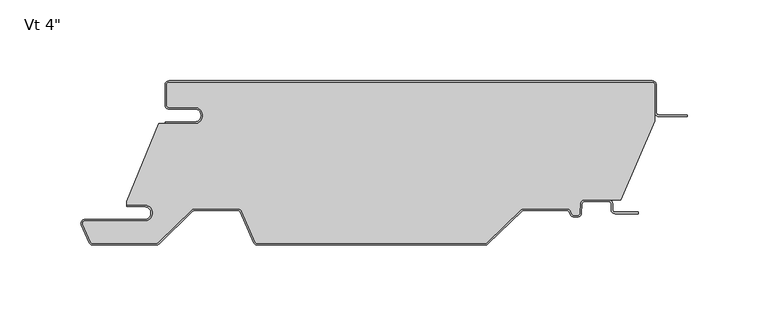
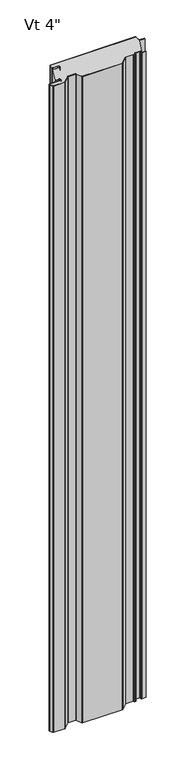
"""IFC4 building model written with IfcOpenShell, lengths in millimetres: plate geometry."""

from ifc_helpers import new_model, si_unit, point, frame_2d, origin, origin_with_axes, place, context, project, spatial, polyline, circle_curve, trimmed, segment, composite_curve, outline, extrude, source, transform, mapped, element, save


def plate_817032a2(model_context):
    return source(origin(), model_context, "Body", "SweptSolid", [
        extrude(outline(composite_curve([segment(trimmed(circle_curve(frame_2d((-133.35, -21.4324412)), 4.96875), [point((-133.35, -26.4011912))], [point((-133.35, -16.4636912))], True, "CARTESIAN"), True, "CONTINUOUS"), segment(polyline([(-133.35, -16.4636912), (-149.225, -16.4636912)]), True, "CONTINUOUS"), segment(trimmed(circle_curve(frame_2d((-149.225, -15.0824412)), 1.38125), [point((-149.225, -16.4636912))], [point((-150.60625, -15.0824412))], False, "CARTESIAN"), True, "CONTINUOUS"), segment(polyline([(-150.60625, -15.0824412), (-150.60625, -2.3824412)]), True, "CONTINUOUS"), segment(trimmed(circle_curve(frame_2d((-149.225, -2.3824412)), 1.38125), [point((-150.60625, -2.3824412))], [point((-149.225, -1.0011912))], False, "CARTESIAN"), True, "CONTINUOUS"), segment(polyline([(-149.225, -1.0011912), (149.225, -1.0011912)]), True, "CONTINUOUS"), segment(trimmed(circle_curve(frame_2d((149.225, -2.3824412)), 1.38125), [point((149.225, -1.0011912))], [point((150.60625, -2.3824412))], False, "CARTESIAN"), True, "CONTINUOUS"), segment(polyline([(150.60625, -2.3824412), (150.60625, -24.8719682), (129.7892934, -73.6136912), (107.3620957, -73.6136912)]), True, "CONTINUOUS"), segment(trimmed(circle_curve(frame_2d((107.3620957, -76.2011912)), 2.5875), [point((107.3620957, -73.6136912))], [point((104.7781418, -76.0657719))], True, "CARTESIAN"), True, "CONTINUOUS"), segment(polyline([(104.7781418, -76.0657719), (104.4760655, -81.8297302)]), True, "CONTINUOUS"), segment(trimmed(circle_curve(frame_2d((103.0967085, -81.7574412)), 1.38125), [point((104.4760655, -81.8297302))], [point((103.0967085, -83.1386912))], False, "CARTESIAN"), True, "CONTINUOUS"), segment(polyline([(103.0967085, -83.1386912), (100.7692019, -83.1386912)]), True, "CONTINUOUS"), segment(trimmed(circle_curve(frame_2d((100.7692019, -81.7574412)), 1.38125), [point((100.7692019, -83.1386912))], [point((99.5062016, -82.3166208))], False, "CARTESIAN"), True, "CONTINUOUS"), segment(polyline([(99.5062016, -82.3166208), (98.7577806, -80.6261871)]), True, "CONTINUOUS"), segment(trimmed(circle_curve(frame_2d((96.3917981, -81.6737)), 2.5875), [point((98.7577806, -80.6261871))], [point((96.3917981, -79.0862))], True, "CARTESIAN"), True, "CONTINUOUS"), segment(polyline([(96.3917981, -79.0862), (69.8679503, -79.0862)]), True, "CONTINUOUS"), segment(trimmed(circle_curve(frame_2d((69.8679503, -81.6737)), 2.5875), [point((69.8679503, -79.0862))], [point((68.0682996, -79.8145567))], True, "CARTESIAN"), True, "CONTINUOUS"), segment(polyline([(68.0682996, -79.8145567), (46.9973962, -100.2111912)]), True, "CONTINUOUS"), segment(trimmed(circle_curve(frame_2d((46.0367131, -99.21875)), 1.38125), [point((46.9973962, -100.2111912))], [point((46.0367131, -100.6))], False, "CARTESIAN"), True, "CONTINUOUS"), segment(polyline([(46.0367131, -100.6), (-94.6999943, -100.6)]), True, "CONTINUOUS"), segment(trimmed(circle_curve(frame_2d((-94.6999943, -99.21875)), 1.38125), [point((-94.6999943, -100.6))], [point((-95.9629946, -99.7779296))], False, "CARTESIAN"), True, "CONTINUOUS"), segment(polyline([(-95.9629946, -99.7779296), (-104.4422194, -80.6261871)]), True, "CONTINUOUS"), segment(trimmed(circle_curve(frame_2d((-106.8082019, -81.6737)), 2.5875), [point((-104.4422194, -80.6261871))], [point((-106.8082019, -79.0862))], True, "CARTESIAN"), True, "CONTINUOUS"), segment(polyline([(-106.8082019, -79.0862), (-133.3320497, -79.0862)]), True, "CONTINUOUS"), segment(trimmed(circle_curve(frame_2d((-133.3320497, -81.6737)), 2.5875), [point((-133.3320497, -79.0862))], [point((-135.1317004, -79.8145567))], True, "CARTESIAN"), True, "CONTINUOUS"), segment(polyline([(-135.1317004, -79.8145567), (-155.9939431, -100.0092077)]), True, "CONTINUOUS"), segment(trimmed(circle_curve(frame_2d((-157.4536946, -98.5012)), 2.0988), [point((-155.9939431, -100.0092077))], [point((-157.4536946, -100.6))], False, "CARTESIAN"), True, "CONTINUOUS"), segment(polyline([(-157.4536946, -100.6), (-196.2999943, -100.6)]), True, "CONTINUOUS"), segment(trimmed(circle_curve(frame_2d((-196.2999943, -99.21875)), 1.38125), [point((-196.2999943, -100.6))], [point((-197.5629946, -99.7779296))], False, "CARTESIAN"), True, "CONTINUOUS"), segment(polyline([(-197.5629946, -99.7779296), (-202.4824052, -88.6666208)]), True, "CONTINUOUS"), segment(trimmed(circle_curve(frame_2d((-201.2194049, -88.1074412)), 1.38125), [point((-202.4824052, -88.6666208))], [point((-201.2194049, -86.7261912))], False, "CARTESIAN"), True, "CONTINUOUS"), segment(polyline([(-201.2194049, -86.7261912), (-164.30625, -86.7261912)]), True, "CONTINUOUS"), segment(trimmed(circle_curve(frame_2d((-164.30625, -81.7574412)), 4.96875), [point((-164.30625, -86.7261912))], [point((-164.30625, -76.7886912))], True, "CARTESIAN"), True, "CONTINUOUS"), segment(polyline([(-164.30625, -76.7886912), (-175.41875, -76.7886912), (-175.41875, -74.633822), (-155.5976612, -26.4011912), (-133.35, -26.4011912)]), True, "CONTINUOUS")], self_intersect=False)), origin_with_axes(), (0.0, 0.0, 1.0), 2400.0),
        extrude(outline(composite_curve([segment(polyline([(-151.60625, -25.4), (-133.35, -25.4)]), True, "CONTINUOUS"), segment(trimmed(circle_curve(frame_2d((-133.35, -21.43125)), 3.96875), [point((-133.35, -25.4))], [point((-133.35, -17.4625))], True, "CARTESIAN"), True, "CONTINUOUS"), segment(polyline([(-133.35, -17.4625), (-149.225, -17.4625)]), True, "CONTINUOUS"), segment(trimmed(circle_curve(frame_2d((-149.225, -15.08125)), 2.38125), [point((-149.225, -17.4625))], [point((-151.60625, -15.08125))], False, "CARTESIAN"), True, "CONTINUOUS"), segment(polyline([(-151.60625, -15.08125), (-151.60625, -2.38125)]), True, "CONTINUOUS"), segment(trimmed(circle_curve(frame_2d((-149.225, -2.38125)), 2.38125), [point((-151.60625, -2.38125))], [point((-149.225, 0.0))], False, "CARTESIAN"), True, "CONTINUOUS"), segment(polyline([(-149.225, 0.0), (149.225, 0.0)]), True, "CONTINUOUS"), segment(trimmed(circle_curve(frame_2d((149.225, -2.38125)), 2.38125), [point((149.225, 0.0))], [point((151.60625, -2.38125))], False, "CARTESIAN"), True, "CONTINUOUS"), segment(polyline([(151.60625, -2.38125), (151.60625, -19.446875)]), True, "CONTINUOUS"), segment(trimmed(circle_curve(frame_2d((153.19375, -19.446875)), 1.5875), [point((151.60625, -19.446875))], [point((153.19375, -21.034375))], True, "CARTESIAN"), True, "CONTINUOUS"), segment(polyline([(153.19375, -21.034375), (170.65625, -21.034375), (170.65625, -22.034375), (153.19375, -22.034375)]), True, "CONTINUOUS"), segment(trimmed(circle_curve(frame_2d((153.19375, -19.446875)), 2.5875), [point((153.19375, -22.034375))], [point((150.60625, -19.446875))], False, "CARTESIAN"), True, "CONTINUOUS"), segment(polyline([(150.60625, -19.446875), (150.60625, -2.38125)]), True, "CONTINUOUS"), segment(trimmed(circle_curve(frame_2d((149.225, -2.38125)), 1.38125), [point((150.60625, -2.38125))], [point((149.225, -1.0))], True, "CARTESIAN"), True, "CONTINUOUS"), segment(polyline([(149.225, -1.0), (-149.225, -1.0)]), True, "CONTINUOUS"), segment(trimmed(circle_curve(frame_2d((-149.225, -2.38125)), 1.38125), [point((-149.225, -1.0))], [point((-150.60625, -2.38125))], True, "CARTESIAN"), True, "CONTINUOUS"), segment(polyline([(-150.60625, -2.38125), (-150.60625, -15.08125)]), True, "CONTINUOUS"), segment(trimmed(circle_curve(frame_2d((-149.225, -15.08125)), 1.38125), [point((-150.60625, -15.08125))], [point((-149.225, -16.4625))], True, "CARTESIAN"), True, "CONTINUOUS"), segment(polyline([(-149.225, -16.4625), (-133.35, -16.4625)]), True, "CONTINUOUS"), segment(trimmed(circle_curve(frame_2d((-133.35, -21.43125)), 4.96875), [point((-133.35, -16.4625))], [point((-133.35, -26.4))], False, "CARTESIAN"), True, "CONTINUOUS"), segment(polyline([(-133.35, -26.4), (-151.60625, -26.4), (-151.60625, -25.4)]), True, "CONTINUOUS")], self_intersect=False)), origin_with_axes(), (0.0, 0.0, 1.0), 2400.0),
        extrude(outline(composite_curve([segment(trimmed(circle_curve(frame_2d((-164.30625, -81.7574412)), 3.96875), [point((-164.30625, -85.7261912))], [point((-164.30625, -77.7886912))], True, "CARTESIAN"), True, "CONTINUOUS"), segment(polyline([(-164.30625, -77.7886912), (-175.41875, -77.7886912), (-175.41875, -76.7886912), (-164.30625, -76.7886912)]), True, "CONTINUOUS"), segment(trimmed(circle_curve(frame_2d((-164.30625, -81.7574412)), 4.96875), [point((-164.30625, -76.7886912))], [point((-164.30625, -86.7261912))], False, "CARTESIAN"), True, "CONTINUOUS"), segment(polyline([(-164.30625, -86.7261912), (-201.2194049, -86.7261912)]), True, "CONTINUOUS"), segment(trimmed(circle_curve(frame_2d((-201.2194049, -88.1074412)), 1.38125), [point((-201.2194049, -86.7261912))], [point((-202.4824052, -88.6666208))], True, "CARTESIAN"), True, "CONTINUOUS"), segment(polyline([(-202.4824052, -88.6666208), (-197.5629946, -99.7779296)]), True, "CONTINUOUS"), segment(trimmed(circle_curve(frame_2d((-196.2999943, -99.21875)), 1.38125), [point((-197.5629946, -99.7779296))], [point((-196.2999943, -100.6))], True, "CARTESIAN"), True, "CONTINUOUS"), segment(polyline([(-196.2999943, -100.6), (-157.4536946, -100.6)]), True, "CONTINUOUS"), segment(trimmed(circle_curve(frame_2d((-157.4536946, -98.5012)), 2.0988), [point((-157.4536946, -100.6))], [point((-155.9939431, -100.0092077))], True, "CARTESIAN"), True, "CONTINUOUS"), segment(polyline([(-155.9939431, -100.0092077), (-135.1317004, -79.8145567)]), True, "CONTINUOUS"), segment(trimmed(circle_curve(frame_2d((-133.3320497, -81.6737)), 2.5875), [point((-135.1317004, -79.8145567))], [point((-133.3320497, -79.0862))], False, "CARTESIAN"), True, "CONTINUOUS"), segment(polyline([(-133.3320497, -79.0862), (-106.8082019, -79.0862)]), True, "CONTINUOUS"), segment(trimmed(circle_curve(frame_2d((-106.8082019, -81.6737)), 2.5875), [point((-106.8082019, -79.0862))], [point((-104.4422194, -80.6261871))], False, "CARTESIAN"), True, "CONTINUOUS"), segment(polyline([(-104.4422194, -80.6261871), (-95.9629946, -99.7779296)]), True, "CONTINUOUS"), segment(trimmed(circle_curve(frame_2d((-94.6999943, -99.21875)), 1.38125), [point((-95.9629946, -99.7779296))], [point((-94.6999943, -100.6))], True, "CARTESIAN"), True, "CONTINUOUS"), segment(polyline([(-94.6999943, -100.6), (46.0367131, -100.6)]), True, "CONTINUOUS"), segment(trimmed(circle_curve(frame_2d((46.0367131, -99.21875)), 1.38125), [point((46.0367131, -100.6))], [point((46.9973962, -100.2111912))], True, "CARTESIAN"), True, "CONTINUOUS"), segment(polyline([(46.9973962, -100.2111912), (68.0682996, -79.8145567)]), True, "CONTINUOUS"), segment(trimmed(circle_curve(frame_2d((69.8679503, -81.6737)), 2.5875), [point((68.0682996, -79.8145567))], [point((69.8679503, -79.0862))], False, "CARTESIAN"), True, "CONTINUOUS"), segment(polyline([(69.8679503, -79.0862), (96.3917981, -79.0862)]), True, "CONTINUOUS"), segment(trimmed(circle_curve(frame_2d((96.3917981, -81.6737)), 2.5875), [point((96.3917981, -79.0862))], [point((98.7577806, -80.6261871))], False, "CARTESIAN"), True, "CONTINUOUS"), segment(polyline([(98.7577806, -80.6261871), (99.5062016, -82.3166208)]), True, "CONTINUOUS"), segment(trimmed(circle_curve(frame_2d((100.7692019, -81.7574412)), 1.38125), [point((99.5062016, -82.3166208))], [point((100.7692019, -83.1386912))], True, "CARTESIAN"), True, "CONTINUOUS"), segment(polyline([(100.7692019, -83.1386912), (103.0967085, -83.1386912)]), True, "CONTINUOUS"), segment(trimmed(circle_curve(frame_2d((103.0967085, -81.7574412)), 1.38125), [point((103.0967085, -83.1386912))], [point((104.4760655, -81.8297302))], True, "CARTESIAN"), True, "CONTINUOUS"), segment(polyline([(104.4760655, -81.8297302), (104.7781418, -76.0657719)]), True, "CONTINUOUS"), segment(trimmed(circle_curve(frame_2d((107.3620957, -76.2011912)), 2.5875), [point((104.7781418, -76.0657719))], [point((107.3620957, -73.6136912))], False, "CARTESIAN"), True, "CONTINUOUS"), segment(polyline([(107.3620957, -73.6136912), (122.2375, -73.6136912)]), True, "CONTINUOUS"), segment(trimmed(circle_curve(frame_2d((122.2375, -76.2011912)), 2.5875), [point((122.2375, -73.6136912))], [point((124.825, -76.2011912))], False, "CARTESIAN"), True, "CONTINUOUS"), segment(polyline([(124.825, -76.2011912), (124.825, -79.7730662)]), True, "CONTINUOUS"), segment(trimmed(circle_curve(frame_2d((126.20625, -79.7730662)), 1.38125), [point((124.825, -79.7730662))], [point((126.20625, -81.1543162))], True, "CARTESIAN"), True, "CONTINUOUS"), segment(polyline([(126.20625, -81.1543162), (140.49375, -81.1543162), (140.49375, -82.1543162), (126.20625, -82.1543162)]), True, "CONTINUOUS"), segment(trimmed(circle_curve(frame_2d((126.20625, -79.7730662)), 2.38125), [point((126.20625, -82.1543162))], [point((123.825, -79.7730662))], False, "CARTESIAN"), True, "CONTINUOUS"), segment(polyline([(123.825, -79.7730662), (123.825, -76.2011912)]), True, "CONTINUOUS"), segment(trimmed(circle_curve(frame_2d((122.2375, -76.2011912)), 1.5875), [point((123.825, -76.2011912))], [point((122.2375, -74.6136912))], True, "CARTESIAN"), True, "CONTINUOUS"), segment(polyline([(122.2375, -74.6136912), (107.3620957, -74.6136912)]), True, "CONTINUOUS"), segment(trimmed(circle_curve(frame_2d((107.3620957, -76.2011912)), 1.5875), [point((107.3620957, -74.6136912))], [point((105.7767713, -76.1181078))], True, "CARTESIAN"), True, "CONTINUOUS"), segment(polyline([(105.7767713, -76.1181078), (105.4746951, -81.8820662)]), True, "CONTINUOUS"), segment(trimmed(circle_curve(frame_2d((103.0967085, -81.7574412)), 2.38125), [point((105.4746951, -81.8820662))], [point((103.0967085, -84.1386912))], False, "CARTESIAN"), True, "CONTINUOUS"), segment(polyline([(103.0967085, -84.1386912), (100.7692019, -84.1386912)]), True, "CONTINUOUS"), segment(trimmed(circle_curve(frame_2d((100.7692019, -81.7574412)), 2.38125), [point((100.7692019, -84.1386912))], [point((98.5918123, -82.7214567))], False, "CARTESIAN"), True, "CONTINUOUS"), segment(polyline([(98.5918123, -82.7214567), (97.8433912, -81.031023)]), True, "CONTINUOUS"), segment(trimmed(circle_curve(frame_2d((96.3917981, -81.6737)), 1.5875), [point((97.8433912, -81.031023))], [point((96.3917981, -80.0862))], True, "CARTESIAN"), True, "CONTINUOUS"), segment(polyline([(96.3917981, -80.0862), (69.8679503, -80.0862)]), True, "CONTINUOUS"), segment(trimmed(circle_curve(frame_2d((69.8679503, -81.6737)), 1.5875), [point((69.8679503, -80.0862))], [point((68.7638168, -80.5330662))], True, "CARTESIAN"), True, "CONTINUOUS"), segment(polyline([(68.7638168, -80.5330662), (47.6929134, -100.9297007)]), True, "CONTINUOUS"), segment(trimmed(circle_curve(frame_2d((46.0367131, -99.21875)), 2.38125), [point((47.6929134, -100.9297007))], [point((46.0367131, -101.6))], False, "CARTESIAN"), True, "CONTINUOUS"), segment(polyline([(46.0367131, -101.6), (-94.6999943, -101.6)]), True, "CONTINUOUS"), segment(trimmed(circle_curve(frame_2d((-94.6999943, -99.21875)), 2.38125), [point((-94.6999943, -101.6))], [point((-96.8773839, -100.1827655))], False, "CARTESIAN"), True, "CONTINUOUS"), segment(polyline([(-96.8773839, -100.1827655), (-105.3566088, -81.031023)]), True, "CONTINUOUS"), segment(trimmed(circle_curve(frame_2d((-106.8082019, -81.6737)), 1.5875), [point((-105.3566088, -81.031023))], [point((-106.8082019, -80.0862))], True, "CARTESIAN"), True, "CONTINUOUS"), segment(polyline([(-106.8082019, -80.0862), (-133.3320497, -80.0862)]), True, "CONTINUOUS"), segment(trimmed(circle_curve(frame_2d((-133.3320497, -81.6737)), 1.5875), [point((-133.3320497, -80.0862))], [point((-134.4361832, -80.5330662))], True, "CARTESIAN"), True, "CONTINUOUS"), segment(polyline([(-134.4361832, -80.5330662), (-155.2984259, -100.7277172)]), True, "CONTINUOUS"), segment(trimmed(circle_curve(frame_2d((-157.4536946, -98.5012)), 3.0988), [point((-155.2984259, -100.7277172))], [point((-157.4536946, -101.6))], False, "CARTESIAN"), True, "CONTINUOUS"), segment(polyline([(-157.4536946, -101.6), (-196.2999943, -101.6)]), True, "CONTINUOUS"), segment(trimmed(circle_curve(frame_2d((-196.2999943, -99.21875)), 2.38125), [point((-196.2999943, -101.6))], [point((-198.4773839, -100.1827655))], False, "CARTESIAN"), True, "CONTINUOUS"), segment(polyline([(-198.4773839, -100.1827655), (-203.3967946, -89.0714567)]), True, "CONTINUOUS"), segment(trimmed(circle_curve(frame_2d((-201.2194049, -88.1074412)), 2.38125), [point((-203.3967946, -89.0714567))], [point((-201.2194049, -85.7261912))], False, "CARTESIAN"), True, "CONTINUOUS"), segment(polyline([(-201.2194049, -85.7261912), (-164.30625, -85.7261912)]), True, "CONTINUOUS")], self_intersect=False)), origin_with_axes(), (0.0, 0.0, 1.0), 2400.0),
    ])


if __name__ == "__main__":
    model = new_model("IFC4")
    model_context = context("Model", 3, world=origin())
    ifc_project = project(units=[si_unit("LENGTHUNIT", "METRE", prefix="MILLI")], contexts=[model_context])
    site = spatial("IfcSite", under=ifc_project)
    building = spatial("IfcBuilding", under=site)
    placement = place(None, origin())
    plate_shape = plate_817032a2(model_context)
    element("IfcPlate", 1, ObjectType="KIP-12-DWR-R19-CP-Vt-A : Vt 4\"", at=placement, inside=building, context=model_context, shape_type="MappedRepresentation", body=[
        mapped(plate_shape, transform((0.0, 0.0, 0.0), x_axis=(1.0, 0.0, 0.0), y_axis=(0.0, 1.0, 0.0), z_axis=(0.0, 0.0, 1.0))),
    ])
    save(model, "model.ifc")
